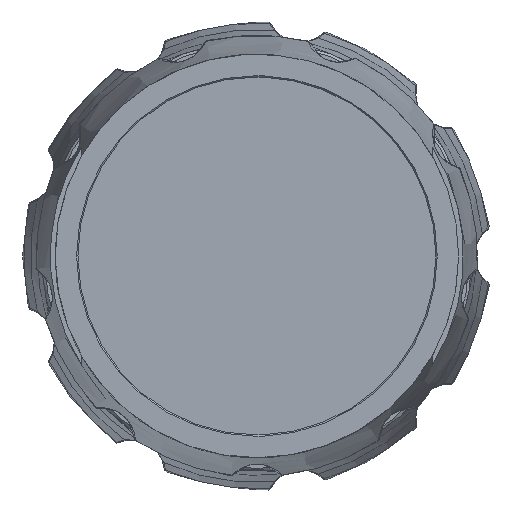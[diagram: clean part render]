
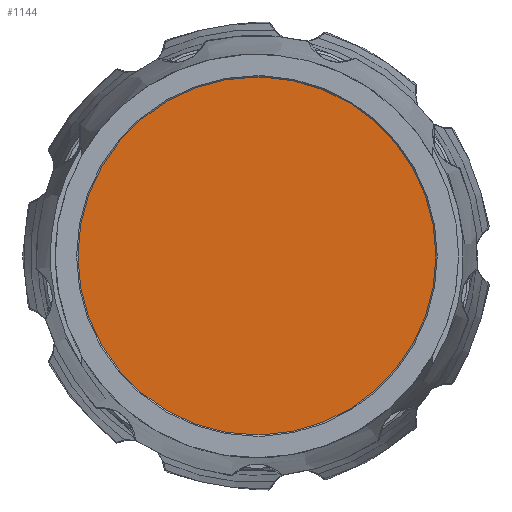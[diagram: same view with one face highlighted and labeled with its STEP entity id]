
A CAD part, left-side view. The second image highlights one B-rep face of the part: STEP entity #1144.
In plain terms, the highlighted planar face has unit normal (-1, 0, 0).
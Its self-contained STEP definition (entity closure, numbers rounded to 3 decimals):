
#1144=ADVANCED_FACE('',(#1636),#1495,.F.);
#1495=PLANE('',#6868);
#1636=FACE_OUTER_BOUND('',#2025,.T.);
#2025=EDGE_LOOP('',(#2768,#2769,#2770,#2771,#2772,#2773));
#2768=ORIENTED_EDGE('',*,*,#5026,.T.);
#2769=ORIENTED_EDGE('',*,*,#5027,.F.);
#2770=ORIENTED_EDGE('',*,*,#5028,.F.);
#2771=ORIENTED_EDGE('',*,*,#5029,.F.);
#2772=ORIENTED_EDGE('',*,*,#5030,.F.);
#2773=ORIENTED_EDGE('',*,*,#5031,.F.);
#4391=VERTEX_POINT('',#11638);
#4392=VERTEX_POINT('',#11639);
#4393=VERTEX_POINT('',#11641);
#4394=VERTEX_POINT('',#11643);
#4395=VERTEX_POINT('',#11645);
#4396=VERTEX_POINT('',#11647);
#5026=EDGE_CURVE('',#4391,#4392,#6453,.T.);
#5027=EDGE_CURVE('',#4393,#4392,#5821,.T.);
#5028=EDGE_CURVE('',#4394,#4393,#5822,.T.);
#5029=EDGE_CURVE('',#4395,#4394,#6454,.T.);
#5030=EDGE_CURVE('',#4396,#4395,#5823,.T.);
#5031=EDGE_CURVE('',#4391,#4396,#5824,.T.);
#5821=LINE('',#11640,#6117);
#5822=LINE('',#11642,#6118);
#5823=LINE('',#11646,#6119);
#5824=LINE('',#11648,#6120);
#6117=VECTOR('',#7780,1.);
#6118=VECTOR('',#7781,1.);
#6119=VECTOR('',#7784,1.);
#6120=VECTOR('',#7785,1.);
#6453=CIRCLE('',#6866,13.75);
#6454=CIRCLE('',#6867,14.5);
#6866=AXIS2_PLACEMENT_3D('',#11637,#7778,#7779);
#6867=AXIS2_PLACEMENT_3D('',#11644,#7782,#7783);
#6868=AXIS2_PLACEMENT_3D('',#11649,#7786,#7787);
#7778=DIRECTION('',(-1.,0.,0.));
#7779=DIRECTION('',(0.,0.,1.));
#7780=DIRECTION('',(0.,0.,-1.));
#7781=DIRECTION('',(0.,-1.,0.));
#7782=DIRECTION('',(1.,0.,0.));
#7783=DIRECTION('',(0.,-1.,0.));
#7784=DIRECTION('',(0.,1.,0.));
#7785=DIRECTION('',(0.,0.,-1.));
#7786=DIRECTION('',(1.,0.,0.));
#7787=DIRECTION('',(0.,0.,1.));
#11637=CARTESIAN_POINT('',(-76.1,0.,0.));
#11638=CARTESIAN_POINT('',(-76.1,-0.5,-13.741));
#11639=CARTESIAN_POINT('',(-76.1,-0.5,13.741));
#11640=CARTESIAN_POINT('',(-76.1,-0.5,10.7));
#11641=CARTESIAN_POINT('',(-76.1,-0.5,14.5));
#11642=CARTESIAN_POINT('',(-76.1,0.,14.5));
#11643=CARTESIAN_POINT('',(-76.1,0.,14.5));
#11644=CARTESIAN_POINT('',(-76.1,0.,0.));
#11645=CARTESIAN_POINT('',(-76.1,0.,-14.5));
#11646=CARTESIAN_POINT('',(-76.1,-0.5,-14.5));
#11647=CARTESIAN_POINT('',(-76.1,-0.5,-14.5));
#11648=CARTESIAN_POINT('',(-76.1,-0.5,-10.7));
#11649=CARTESIAN_POINT('',(-76.1,0.,-10.7));
